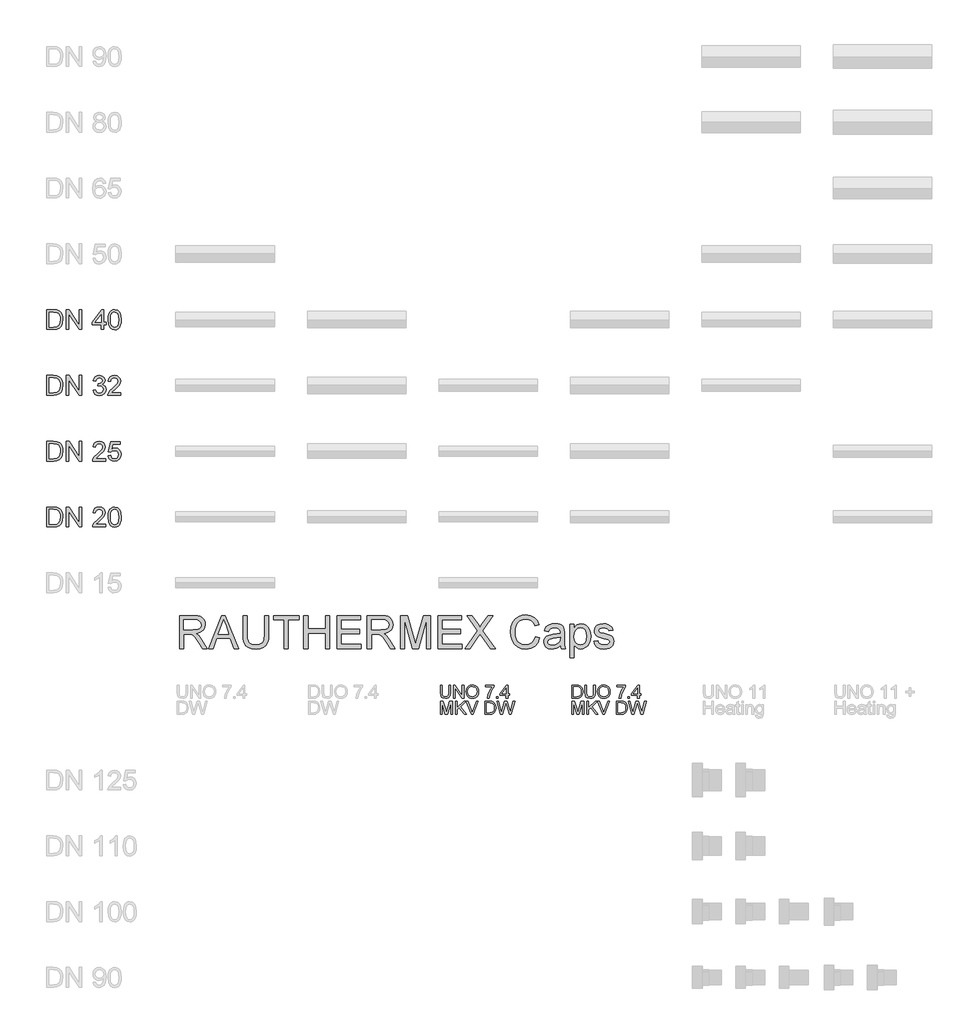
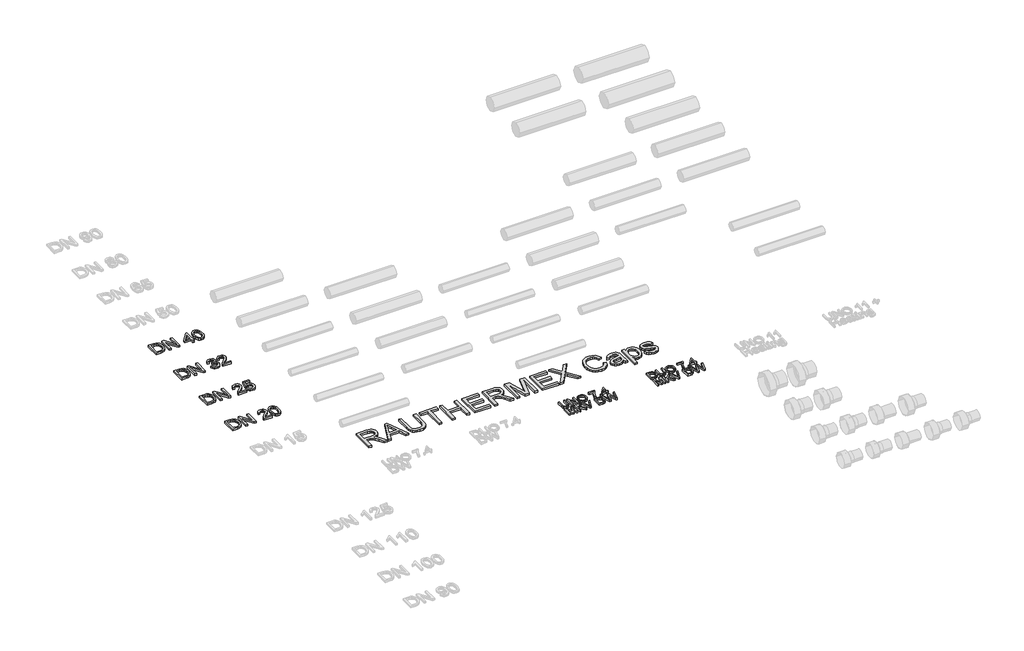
# One storey, part 14 of 44: 7 proxies.
"""IFC4 building model written with IfcOpenShell, lengths in millimetres."""

import ifcopenshell
import ifcopenshell.guid

model = None  # the IFC model being written
_history = None  # IfcOwnerHistory: only IFC2X3 demands one
_inside = {}  # id of a spatial element -> (the spatial element, [elements in it])
_under = {}  # id of a project, library or spatial element -> (it, [spatial elements below it])
_declared = {}  # id of a project -> (the project, [libraries it declares])
_typed = {}  # id of a type object -> (the type object, [elements of that type])
_made_of = {}  # id of a material, layer set ... -> (it, [elements and type objects made of it])


def new_model(schema):
    """Start an empty IFC model of exactly this schema.

    Asked for "IFC4X3", IfcOpenShell would pick the latest addendum, in which some entities
    have other attributes; the version numbers below select the first issue.
    IFC2X3 requires an IfcOwnerHistory on every rooted entity: one is made here for all.
    """
    global model, _history
    if schema == "IFC4X3":
        model = ifcopenshell.file(schema_version=(4, 3, 0, 0))
    else:
        model = ifcopenshell.file(schema=schema)
    _inside.clear()
    _under.clear()
    _declared.clear()
    _typed.clear()
    _made_of.clear()
    _history = None
    if model.schema == "IFC2X3":
        org = make("IfcOrganization", Name="unknown")
        user = make(
            "IfcPersonAndOrganization",
            ThePerson=make("IfcPerson", FamilyName="unknown"),
            TheOrganization=org,
        )
        app = make(
            "IfcApplication",
            ApplicationDeveloper=org,
            Version="unknown",
            ApplicationFullName="unknown",
            ApplicationIdentifier="unknown",
        )
        _history = make(
            "IfcOwnerHistory",
            OwningUser=user,
            OwningApplication=app,
            ChangeAction="ADDED",
            CreationDate=0,
        )
    return model


def make(cls, **values):
    """One entity of the class cls with the attributes given. An attribute that is None is left unset."""
    return model.create_entity(
        cls, **{name: value for name, value in values.items() if value is not None}
    )


def rooted(cls, **values):
    """An entity with a GlobalId (a new one), such as an element, a storey or a relation."""
    return make(cls, GlobalId=ifcopenshell.guid.new(), OwnerHistory=_history, **values)


def si_unit(unit_type, name, prefix=None):
    """IfcSIUnit, for example si_unit("LENGTHUNIT", "METRE", prefix="MILLI")."""
    return make("IfcSIUnit", UnitType=unit_type, Prefix=prefix, Name=name)


def assignment(units):
    """IfcUnitAssignment: the units of a project."""
    return None if units is None else make("IfcUnitAssignment", Units=units)


def point(xyz):
    """IfcCartesianPoint."""
    return None if xyz is None else make("IfcCartesianPoint", Coordinates=xyz)


def direction(xyz):
    """IfcDirection."""
    return None if xyz is None else make("IfcDirection", DirectionRatios=xyz)


def frame(location, z_axis=None, x_axis=None):
    """IfcAxis2Placement3D, a coordinate frame: its origin and axes. An axis left out is left unset."""
    return make(
        "IfcAxis2Placement3D",
        Location=point(location),
        Axis=direction(z_axis),
        RefDirection=direction(x_axis),
    )


def origin():
    """The frame at (0, 0, 0) with its axes left unset."""
    return frame((0.0, 0.0, 0.0))


def origin_with_axes():
    """The frame at (0, 0, 0) with the z axis (0, 0, 1) and the x axis (1, 0, 0) written out."""
    return frame((0.0, 0.0, 0.0), z_axis=(0.0, 0.0, 1.0), x_axis=(1.0, 0.0, 0.0))


def place(relative_to, where):
    """IfcLocalPlacement: puts the frame where relative to a parent placement (None: the world)."""
    return make(
        "IfcLocalPlacement", PlacementRelTo=relative_to, RelativePlacement=where
    )


def context(
    kind, dimensions, precision=None, world=None, true_north=None, identifier=None
):
    """IfcGeometricRepresentationContext, for example the 3D "Model" context."""
    return make(
        "IfcGeometricRepresentationContext",
        ContextIdentifier=identifier,
        ContextType=kind,
        CoordinateSpaceDimension=dimensions,
        Precision=precision,
        WorldCoordinateSystem=world,
        TrueNorth=true_north,
    )


def project(units=None, contexts=None):
    """IfcProject with its units and contexts."""
    return rooted(
        "IfcProject",
        Name="project",
        RepresentationContexts=contexts,
        UnitsInContext=assignment(units),
    )


def spatial(cls, under=None, at=None, **own):
    """A site, building, storey or space (cls), placed at a placement, below another one or the project."""
    s = rooted(cls, ObjectPlacement=at, **own)
    if under is not None:
        _under.setdefault(under.id(), (under, []))[1].append(s)
    return s


def polyline(points):
    """IfcPolyline through the points."""
    return make("IfcPolyline", Points=[point(p) for p in points])


def outline(outer, holes=None, kind="AREA"):
    """IfcArbitraryClosedProfileDef: a profile drawn as a closed curve; with holes, ...WithVoids."""
    if holes is None:
        return make("IfcArbitraryClosedProfileDef", ProfileType=kind, OuterCurve=outer)
    return make(
        "IfcArbitraryProfileDefWithVoids",
        ProfileType=kind,
        OuterCurve=outer,
        InnerCurves=holes,
    )


def extrude(swept, where, along, depth):
    """IfcExtrudedAreaSolid: the profile swept, set in the frame where, extruded along a direction by depth."""
    return make(
        "IfcExtrudedAreaSolid",
        SweptArea=swept,
        Position=where,
        ExtrudedDirection=direction(along),
        Depth=depth,
    )


def shape(context_of_items, identifier, shape_type, items):
    """IfcShapeRepresentation: the items that make up one representation, for example the "Body"."""
    return make(
        "IfcShapeRepresentation",
        ContextOfItems=context_of_items,
        RepresentationIdentifier=identifier,
        RepresentationType=shape_type,
        Items=items,
    )


def made_of(thing, what):
    """Note that an element or type object is made of a material, layer set ...; save() writes the relation."""
    if what is not None:
        _made_of.setdefault(what.id(), (what, []))[1].append(thing)
    return thing


def element(
    cls,
    number,
    at=None,
    inside=None,
    cuts=None,
    type_object=None,
    material=None,
    context=None,
    identifier="Body",
    shape_type=None,
    held_by="IfcProductDefinitionShape",
    body=None,
    shapes=None,
    **own,
):
    """One element of the class cls, such as IfcWall. Its Tag is "e" and its number.

    at: its placement. inside: the storey or other place that contains it. cuts: it is an
    opening in that element (IfcRelVoidsElement). A single representation is given by context,
    identifier, shape_type and body (its items); several are given by shapes. held_by: the class
    of the entity that holds the representations. save() writes the other relations.
    """
    e = rooted(cls, Tag="e%d" % number, ObjectPlacement=at, **own)
    if body is not None:
        shapes = [shape(context, identifier, shape_type, body)]
    if shapes is not None:
        e.Representation = make(held_by, Representations=shapes)
    if inside is not None:
        _inside.setdefault(inside.id(), (inside, []))[1].append(e)
    if cuts is not None:
        rooted(
            "IfcRelVoidsElement", RelatingBuildingElement=cuts, RelatedOpeningElement=e
        )
    if type_object is not None:
        _typed.setdefault(type_object.id(), (type_object, []))[1].append(e)
    return made_of(e, material)


def aggregate(whole, parts):
    """IfcRelAggregates: a whole, such as a stair, and the parts it consists of."""
    return rooted("IfcRelAggregates", RelatingObject=whole, RelatedObjects=parts)


def save(model, path):
    """Write the relations noted so far, then the file.

    IfcRelAggregates (storeys below a building ...), IfcRelContainedInSpatialStructure (elements
    in a storey), IfcRelDefinesByType, IfcRelAssociatesMaterial and IfcRelDeclares: one each for
    every whole, place, type object, material and project.
    """
    for whole, parts in _under.values():
        aggregate(whole, parts)
    for where, things in _inside.values():
        rooted(
            "IfcRelContainedInSpatialStructure",
            RelatedElements=things,
            RelatingStructure=where,
        )
    for kind, things in _typed.values():
        rooted("IfcRelDefinesByType", RelatedObjects=things, RelatingType=kind)
    for what, things in _made_of.values():
        rooted("IfcRelAssociatesMaterial", RelatedObjects=things, RelatingMaterial=what)
    for by, libraries in _declared.values():
        rooted("IfcRelDeclares", RelatingContext=by, RelatedDefinitions=libraries)
    model.write(path)


model = new_model("IFC4")

# Units and contexts
model_context = context("Model", 3, world=origin())
ifc_project = project(units=[si_unit("LENGTHUNIT", "METRE", prefix="MILLI")], contexts=[model_context])

# Site, building, storey
site = spatial("IfcSite", under=ifc_project)
building = spatial("IfcBuilding", under=site)
storey = spatial("IfcBuildingStorey", under=building, Name="REHAU Starting view", Elevation=0.0)

# Proxies
placement = place(None, origin())
element("IfcBuildingElementProxy", 1, Name="100", ObjectType="100", at=placement, inside=storey, context=model_context, shape_type="SweptSolid", body=[
    extrude(outline(polyline([(3076.9118625, 13222.431128), (3089.4689012, 13222.431128), (3089.4689012, 13164.477451), (3086.0598614, 13140.4547567), (3073.7726028, 13125.9847316), (3063.5086951, 13121.8000739), (3050.4734097, 13120.405188), (3027.529836, 13125.2612303), (3019.8901532, 13131.2055902), (3014.8011189, 13139.3265853), (3010.9874089, 13164.477451), (3010.9874089, 13222.431128), (3023.5444477, 13222.431128), (3023.5444477, 13164.9189094), (3026.0215198, 13145.7767829), (3034.5318566, 13136.2976902), (3049.2961874, 13132.9622268), (3062.067824, 13134.6115644), (3070.5597667, 13139.5595772), (3075.3238385, 13149.1980855), (3076.9118625, 13164.9189094), (3076.9118625, 13222.431128)])), origin_with_axes(), (0.0, 0.0, 1.0), 20.0),
    extrude(outline(polyline([(3111.4437191, 13121.9748178), (3111.4437191, 13222.431128), (3124.8836746, 13222.431128), (3177.3681726, 13142.8459897), (3177.3681726, 13222.431128), (3189.9252114, 13222.431128), (3189.9252114, 13121.9748178), (3176.4852558, 13121.9748178), (3124.0007578, 13201.5844816), (3124.0007578, 13121.9748178), (3111.4437191, 13121.9748178)])), origin_with_axes(), (0.0, 0.0, 1.0), 20.0),
    extrude(outline(polyline([(3207.1911397, 13170.8785977), (3210.5388658, 13193.0925389), (3220.5820443, 13209.8986147), (3235.9165921, 13220.4752221), (3255.1384264, 13224.0007578), (3268.3147332, 13222.3452889), (3280.1298766, 13217.3788819), (3289.9400631, 13209.4510249), (3297.1014993, 13198.9112058), (3301.479295, 13186.2683279), (3302.9385603, 13172.0312947), (3301.402653, 13157.6041891), (3296.794931, 13144.7835015), (3289.369846, 13134.2252883), (3279.3818499, 13126.5856055), (3267.667874, 13121.9502924), (3255.06485, 13120.405188), (3241.6862081, 13122.1127736), (3229.8036197, 13127.2355304), (3220.0179586, 13135.3105402), (3212.9300988, 13145.8748848), (3207.1911397, 13170.8785977)]), holes=[polyline([(3219.7481785, 13170.7559704), (3222.2589731, 13155.0412778), (3229.7913569, 13143.0667189), (3241.1129253, 13135.4883498), (3254.9912736, 13132.9622268), (3269.071957, 13135.5128753), (3280.4119195, 13143.1648208), (3287.889121, 13155.5072617), (3290.3815215, 13172.1293965), (3286.1140904, 13192.8534156), (3273.6428907, 13206.575414), (3255.2120028, 13211.4437191), (3241.7046022, 13209.0984714), (3230.2205526, 13202.0627282), (3222.366272, 13189.5455433), (3219.7481785, 13170.7559704)])]), origin_with_axes(), (0.0, 0.0, 1.0), 20.0),
    extrude(outline(polyline([(3354.7363452, 13208.3044594), (3354.7363452, 13220.8614981), (3420.6607988, 13220.8614981), (3420.6607988, 13210.7079551), (3401.9601307, 13183.6931539), (3387.6495211, 13149.2716619), (3382.9896824, 13121.9748178), (3370.4326437, 13121.9748178), (3375.4235761, 13150.3017315), (3389.121049, 13182.3197278), (3408.10376, 13208.3044594), (3354.7363452, 13208.3044594)])), origin_with_axes(), (0.0, 0.0, 1.0), 20.0),
    extrude(outline(polyline([(3437.9267271, 13121.9748178), (3437.9267271, 13134.5318566), (3450.4837658, 13134.5318566), (3450.4837658, 13121.9748178), (3437.9267271, 13121.9748178)])), origin_with_axes(), (0.0, 0.0, 1.0), 20.0),
    extrude(outline(polyline([(3511.6993298, 13121.9748178), (3511.6993298, 13145.5192655), (3466.1800643, 13145.5192655), (3466.1800643, 13158.0763043), (3514.8385895, 13220.8614981), (3524.2563686, 13220.8614981), (3524.2563686, 13158.0763043), (3536.8134074, 13158.0763043), (3536.8134074, 13145.5192655), (3524.2563686, 13145.5192655), (3524.2563686, 13121.9748178), (3511.6993298, 13121.9748178)]), holes=[polyline([(3511.6993298, 13158.0763043), (3511.6993298, 13196.8755921), (3481.6311081, 13158.0763043), (3511.6993298, 13158.0763043)])]), origin_with_axes(), (0.0, 0.0, 1.0), 20.0),
    extrude(outline(polyline([(3010.9874089, 13000.0), (3010.9874089, 13100.4563101), (3032.5943448, 13100.4563101), (3053.1466856, 13029.6512888), (3057.2914894, 13014.8624326), (3061.7796497, 13030.8775621), (3081.988634, 13100.4563101), (3103.5955698, 13100.4563101), (3103.5955698, 13000.0), (3091.0385311, 13000.0), (3091.0385311, 13087.8992714), (3065.8018262, 13000.0), (3048.7811526, 13000.0), (3023.5444477, 13087.8992714), (3023.5444477, 13000.0), (3010.9874089, 13000.0)])), origin_with_axes(), (0.0, 0.0, 1.0), 20.0),
    extrude(outline(polyline([(3247.8543629, 13000.0), (3207.8778527, 13100.4563101), (3221.3178083, 13100.4563101), (3248.0750921, 13028.081659), (3253.4952201, 13011.7722238), (3258.8417718, 13028.081659), (3285.672632, 13100.4563101), (3299.1125875, 13100.4563101), (3260.8283346, 13000.0), (3247.8543629, 13000.0)])), origin_with_axes(), (0.0, 0.0, 1.0), 20.0),
    extrude(outline(polyline([(3125.5703877, 13000.0), (3125.5703877, 13100.4563101), (3138.1274265, 13100.4563101), (3138.1274265, 13051.2827501), (3189.6309058, 13100.4563101), (3207.1911397, 13100.4563101), (3163.9527425, 13059.1554248), (3208.7607695, 13000.0), (3193.4078276, 13000.0), (3155.0499982, 13050.6696135), (3138.1274265, 13034.5318566), (3138.1274265, 13000.0), (3125.5703877, 13000.0)])), origin_with_axes(), (0.0, 0.0, 1.0), 20.0),
    extrude(outline(polyline([(3350.0274557, 13000.0), (3350.0274557, 13100.4563101), (3384.6819396, 13100.4563101), (3402.6100555, 13099.0093076), (3417.3743863, 13091.823346), (3429.2692374, 13074.6555196), (3433.2178375, 13050.7677153), (3430.5445617, 13030.4974174), (3423.6774311, 13015.8679767), (3414.5049067, 13006.756766), (3402.4996909, 13001.7167826), (3386.3496713, 13000.0), (3350.0274557, 13000.0)]), holes=[polyline([(3362.5844944, 13012.5570388), (3384.804567, 13012.5570388), (3400.9668493, 13014.3719233), (3410.2865265, 13019.4977457), (3417.9262093, 13031.9689454), (3420.6607988, 13050.9639191), (3419.3210952, 13064.6491293), (3415.3019844, 13074.7536214), (3402.266699, 13085.8881831), (3384.4612104, 13087.8992714), (3362.5844944, 13087.8992714), (3362.5844944, 13012.5570388)])]), origin_with_axes(), (0.0, 0.0, 1.0), 20.0),
    extrude(outline(polyline([(3468.4609327, 13000.0), (3441.0659868, 13100.4563101), (3454.015433, 13100.4563101), (3469.9079352, 13034.4337547), (3474.8130284, 13014.0530922), (3480.0614782, 13032.07931), (3499.9761569, 13100.4563101), (3518.6400368, 13100.4563101), (3533.1100619, 13050.8903427), (3543.8767417, 13014.0530922), (3548.6346821, 13033.8451436), (3564.6743371, 13100.4563101), (3577.6237834, 13100.4563101), (3550.204312, 13000.0), (3536.7888819, 13000.0), (3512.7048739, 13077.5004737), (3509.3448851, 13088.3162043), (3505.5679632, 13075.2931817), (3483.6176709, 13000.0), (3468.4609327, 13000.0)])), origin_with_axes(), (0.0, 0.0, 1.0), 20.0),
])
element("IfcBuildingElementProxy", 2, Name="100", ObjectType="100", at=placement, inside=storey, context=model_context, shape_type="SweptSolid", body=[
    extrude(outline(polyline([(4010.9874089, 13121.9748178), (4010.9874089, 13222.431128), (4045.6418929, 13222.431128), (4063.5700088, 13220.9841255), (4078.3343395, 13213.7981638), (4090.2291907, 13196.6303374), (4094.1777908, 13172.7425332), (4091.5045149, 13152.4722352), (4084.6373844, 13137.8427946), (4075.4648599, 13128.7315838), (4063.4596442, 13123.6916005), (4047.3096246, 13121.9748178), (4010.9874089, 13121.9748178)]), holes=[polyline([(4023.5444477, 13134.5318566), (4045.7645202, 13134.5318566), (4061.9268025, 13136.3467411), (4071.2464797, 13141.4725636), (4078.8861625, 13153.9437632), (4081.620752, 13172.9387369), (4080.2810484, 13186.6239471), (4076.2619376, 13196.7284393), (4063.2266522, 13207.863001), (4045.4211637, 13209.8740892), (4023.5444477, 13209.8740892), (4023.5444477, 13134.5318566)])]), origin_with_axes(), (0.0, 0.0, 1.0), 20.0),
    extrude(outline(polyline([(4177.3681726, 13222.431128), (4189.9252114, 13222.431128), (4189.9252114, 13164.477451), (4186.5161716, 13140.4547567), (4174.2289129, 13125.9847316), (4163.9650053, 13121.8000739), (4150.9297199, 13120.405188), (4127.9861461, 13125.2612303), (4120.3464634, 13131.2055902), (4115.2574291, 13139.3265853), (4111.4437191, 13164.477451), (4111.4437191, 13222.431128), (4124.0007578, 13222.431128), (4124.0007578, 13164.9189094), (4126.4778299, 13145.7767829), (4134.9881668, 13136.2976902), (4149.7524975, 13132.9622268), (4162.5241341, 13134.6115644), (4171.0160768, 13139.5595772), (4175.7801487, 13149.1980855), (4177.3681726, 13164.9189094), (4177.3681726, 13222.431128)])), origin_with_axes(), (0.0, 0.0, 1.0), 20.0),
    extrude(outline(polyline([(4207.1911397, 13170.8785977), (4210.5388658, 13193.0925389), (4220.5820443, 13209.8986147), (4235.9165921, 13220.4752221), (4255.1384264, 13224.0007578), (4268.3147332, 13222.3452889), (4280.1298766, 13217.3788819), (4289.9400631, 13209.4510249), (4297.1014993, 13198.9112058), (4301.479295, 13186.2683279), (4302.9385603, 13172.0312947), (4301.402653, 13157.6041891), (4296.794931, 13144.7835015), (4289.369846, 13134.2252883), (4279.3818499, 13126.5856055), (4267.667874, 13121.9502924), (4255.06485, 13120.405188), (4241.6862081, 13122.1127736), (4229.8036197, 13127.2355304), (4220.0179586, 13135.3105402), (4212.9300988, 13145.8748848), (4207.1911397, 13170.8785977)]), holes=[polyline([(4219.7481785, 13170.7559704), (4222.2589731, 13155.0412778), (4229.7913569, 13143.0667189), (4241.1129253, 13135.4883498), (4254.9912736, 13132.9622268), (4269.071957, 13135.5128753), (4280.4119195, 13143.1648208), (4287.889121, 13155.5072617), (4290.3815215, 13172.1293965), (4286.1140904, 13192.8534156), (4273.6428907, 13206.575414), (4255.2120028, 13211.4437191), (4241.7046022, 13209.0984714), (4230.2205526, 13202.0627282), (4222.366272, 13189.5455433), (4219.7481785, 13170.7559704)])]), origin_with_axes(), (0.0, 0.0, 1.0), 20.0),
    extrude(outline(polyline([(4354.7363452, 13208.3044594), (4354.7363452, 13220.8614981), (4420.6607988, 13220.8614981), (4420.6607988, 13210.7079551), (4401.9601307, 13183.6931539), (4387.6495211, 13149.2716619), (4382.9896824, 13121.9748178), (4370.4326437, 13121.9748178), (4375.4235761, 13150.3017315), (4389.121049, 13182.3197278), (4408.10376, 13208.3044594), (4354.7363452, 13208.3044594)])), origin_with_axes(), (0.0, 0.0, 1.0), 20.0),
    extrude(outline(polyline([(4437.9267271, 13121.9748178), (4437.9267271, 13134.5318566), (4450.4837658, 13134.5318566), (4450.4837658, 13121.9748178), (4437.9267271, 13121.9748178)])), origin_with_axes(), (0.0, 0.0, 1.0), 20.0),
    extrude(outline(polyline([(4511.6993298, 13121.9748178), (4511.6993298, 13145.5192655), (4466.1800643, 13145.5192655), (4466.1800643, 13158.0763043), (4514.8385895, 13220.8614981), (4524.2563686, 13220.8614981), (4524.2563686, 13158.0763043), (4536.8134074, 13158.0763043), (4536.8134074, 13145.5192655), (4524.2563686, 13145.5192655), (4524.2563686, 13121.9748178), (4511.6993298, 13121.9748178)]), holes=[polyline([(4511.6993298, 13158.0763043), (4511.6993298, 13196.8755921), (4481.6311081, 13158.0763043), (4511.6993298, 13158.0763043)])]), origin_with_axes(), (0.0, 0.0, 1.0), 20.0),
    extrude(outline(polyline([(4010.9874089, 13000.0), (4010.9874089, 13100.4563101), (4032.5943448, 13100.4563101), (4053.1466856, 13029.6512888), (4057.2914894, 13014.8624326), (4061.7796497, 13030.8775621), (4081.988634, 13100.4563101), (4103.5955698, 13100.4563101), (4103.5955698, 13000.0), (4091.0385311, 13000.0), (4091.0385311, 13087.8992714), (4065.8018262, 13000.0), (4048.7811526, 13000.0), (4023.5444477, 13087.8992714), (4023.5444477, 13000.0), (4010.9874089, 13000.0)])), origin_with_axes(), (0.0, 0.0, 1.0), 20.0),
    extrude(outline(polyline([(4247.8543629, 13000.0), (4207.8778527, 13100.4563101), (4221.3178083, 13100.4563101), (4248.0750921, 13028.081659), (4253.4952201, 13011.7722238), (4258.8417718, 13028.081659), (4285.672632, 13100.4563101), (4299.1125875, 13100.4563101), (4260.8283346, 13000.0), (4247.8543629, 13000.0)])), origin_with_axes(), (0.0, 0.0, 1.0), 20.0),
    extrude(outline(polyline([(4125.5703877, 13000.0), (4125.5703877, 13100.4563101), (4138.1274265, 13100.4563101), (4138.1274265, 13051.2827501), (4189.6309058, 13100.4563101), (4207.1911397, 13100.4563101), (4163.9527425, 13059.1554248), (4208.7607695, 13000.0), (4193.4078276, 13000.0), (4155.0499982, 13050.6696135), (4138.1274265, 13034.5318566), (4138.1274265, 13000.0), (4125.5703877, 13000.0)])), origin_with_axes(), (0.0, 0.0, 1.0), 20.0),
    extrude(outline(polyline([(4350.0274557, 13000.0), (4350.0274557, 13100.4563101), (4384.6819396, 13100.4563101), (4402.6100555, 13099.0093076), (4417.3743863, 13091.823346), (4429.2692374, 13074.6555196), (4433.2178375, 13050.7677153), (4430.5445617, 13030.4974174), (4423.6774311, 13015.8679767), (4414.5049067, 13006.756766), (4402.4996909, 13001.7167826), (4386.3496713, 13000.0), (4350.0274557, 13000.0)]), holes=[polyline([(4362.5844944, 13012.5570388), (4384.804567, 13012.5570388), (4400.9668493, 13014.3719233), (4410.2865265, 13019.4977457), (4417.9262093, 13031.9689454), (4420.6607988, 13050.9639191), (4419.3210952, 13064.6491293), (4415.3019844, 13074.7536214), (4402.266699, 13085.8881831), (4384.4612104, 13087.8992714), (4362.5844944, 13087.8992714), (4362.5844944, 13012.5570388)])]), origin_with_axes(), (0.0, 0.0, 1.0), 20.0),
    extrude(outline(polyline([(4468.4609327, 13000.0), (4441.0659868, 13100.4563101), (4454.015433, 13100.4563101), (4469.9079352, 13034.4337547), (4474.8130284, 13014.0530922), (4480.0614782, 13032.07931), (4499.9761569, 13100.4563101), (4518.6400368, 13100.4563101), (4533.1100619, 13050.8903427), (4543.8767417, 13014.0530922), (4548.6346821, 13033.8451436), (4564.6743371, 13100.4563101), (4577.6237834, 13100.4563101), (4550.204312, 13000.0), (4536.7888819, 13000.0), (4512.7048739, 13077.5004737), (4509.3448851, 13088.3162043), (4505.5679632, 13075.2931817), (4483.6176709, 13000.0), (4468.4609327, 13000.0)])), origin_with_axes(), (0.0, 0.0, 1.0), 20.0),
])
element("IfcBuildingElementProxy", 3, Name="150", ObjectType="150", at=placement, inside=storey, context=model_context, shape_type="SweptSolid", body=[
    extrude(outline(polyline([(16.4811134, 14425.0), (16.4811134, 14575.6844652), (68.4628393, 14575.6844652), (95.3550131, 14573.5139615), (117.5015093, 14562.735019), (127.9217668, 14551.2571007), (135.343786, 14536.9832793), (139.7859611, 14520.1894663), (141.2666861, 14501.151573), (137.2567724, 14470.7461261), (126.9560765, 14448.8019651), (113.1972899, 14435.135149), (95.1894663, 14427.575174), (70.9644369, 14425.0), (16.4811134, 14425.0)]), holes=[polyline([(35.3166715, 14443.8355582), (68.6467803, 14443.8355582), (92.8902038, 14446.5578849), (106.8697196, 14454.2466186), (118.3292437, 14472.9534181), (122.431128, 14501.4458786), (120.4215726, 14521.9736939), (114.3929064, 14537.1304321), (105.4855636, 14547.5414926), (94.8399784, 14553.8322747), (68.1317455, 14556.8489071), (35.3166715, 14556.8489071), (35.3166715, 14443.8355582)])]), origin_with_axes(), (0.0, 0.0, 1.0), 20.0),
    extrude(outline(polyline([(167.1655786, 14425.0), (167.1655786, 14575.6844652), (187.3255119, 14575.6844652), (266.0522589, 14456.3067578), (266.0522589, 14575.6844652), (284.8878171, 14575.6844652), (284.8878171, 14425.0), (264.7278837, 14425.0), (186.0011368, 14544.4144956), (186.0011368, 14425.0), (167.1655786, 14425.0)])), origin_with_axes(), (0.0, 0.0, 1.0), 20.0),
    extrude(outline(polyline([(466.1800643, 14443.8355582), (466.1800643, 14425.0), (367.293384, 14425.0), (369.316735, 14437.9862344), (380.757865, 14457.9806209), (404.3391009, 14479.8144173), (436.8598693, 14511.1947515), (442.9575133, 14522.0104821), (444.9900614, 14532.5319072), (443.0724765, 14541.9634818), (437.3197218, 14549.8039669), (428.4767583, 14555.087672), (417.2885471, 14556.8489071), (405.5393159, 14555.1290587), (396.4112439, 14549.9695138), (390.5205335, 14541.7749423), (388.4833869, 14530.9500146), (369.6478288, 14533.3044594), (374.214164, 14551.5238152), (384.0871971, 14564.8319464), (398.7518931, 14572.9713355), (417.6932173, 14575.6844652), (436.7724973, 14572.6678329), (451.4096022, 14563.6179358), (460.7216152, 14550.0982725), (463.8256195, 14533.6723414), (460.4778934, 14515.8116705), (449.349463, 14497.3439944), (422.3653187, 14471.5370724), (400.6970691, 14453.4188841), (392.1989951, 14443.8355582), (466.1800643, 14443.8355582)])), origin_with_axes(), (0.0, 0.0, 1.0), 20.0),
    extrude(outline(polyline([(485.0156224, 14499.128222), (486.3997784, 14523.2474853), (490.5522465, 14542.4831152), (497.4316398, 14557.1294171), (506.9965717, 14567.4806967), (519.31602, 14573.6335231), (534.4589626, 14575.6844652), (556.4583059, 14570.8284229), (571.6518323, 14556.830513), (580.4810002, 14534.5368641), (583.9023027, 14499.128222), (582.5319423, 14475.1469145), (578.420861, 14455.9572699), (571.5828544, 14441.2971724), (562.0317181, 14430.904506), (549.6846787, 14424.7102929), (534.4589626, 14422.6455552), (514.8876404, 14426.2324047), (500.0252078, 14436.992953), (488.7680188, 14462.4779783), (485.0156224, 14499.128222)]), holes=[polyline([(503.8511806, 14499.1650102), (506.0584726, 14469.536714), (512.6803485, 14452.3888145), (522.5395859, 14444.2080387), (534.4589626, 14441.4811134), (546.3783392, 14444.2172357), (556.2375767, 14452.4256027), (562.8594526, 14469.5826993), (565.0667446, 14499.1650102), (562.933029, 14528.1265203), (556.5318823, 14545.407777), (546.6910389, 14553.9886246), (534.2382334, 14556.8489071), (522.4476155, 14554.3289154), (512.9746541, 14546.7689404), (506.132049, 14528.4116288), (503.8511806, 14499.1650102)])]), origin_with_axes(), (0.0, 0.0, 1.0), 20.0),
])
element("IfcBuildingElementProxy", 4, Name="150", ObjectType="150", at=placement, inside=storey, context=model_context, shape_type="SweptSolid", body=[
    extrude(outline(polyline([(16.4811134, 14925.0), (16.4811134, 15075.6844652), (68.4628393, 15075.6844652), (95.3550131, 15073.5139615), (117.5015093, 15062.735019), (127.9217668, 15051.2571007), (135.343786, 15036.9832793), (139.7859611, 15020.1894663), (141.2666861, 15001.151573), (137.2567724, 14970.7461261), (126.9560765, 14948.8019651), (113.1972899, 14935.135149), (95.1894663, 14927.575174), (70.9644369, 14925.0), (16.4811134, 14925.0)]), holes=[polyline([(35.3166715, 14943.8355582), (68.6467803, 14943.8355582), (92.8902038, 14946.5578849), (106.8697196, 14954.2466186), (118.3292437, 14972.9534181), (122.431128, 15001.4458786), (120.4215726, 15021.9736939), (114.3929064, 15037.1304321), (105.4855636, 15047.5414926), (94.8399784, 15053.8322747), (68.1317455, 15056.8489071), (35.3166715, 15056.8489071), (35.3166715, 14943.8355582)])]), origin_with_axes(), (0.0, 0.0, 1.0), 20.0),
    extrude(outline(polyline([(167.1655786, 14925.0), (167.1655786, 15075.6844652), (187.3255119, 15075.6844652), (266.0522589, 14956.3067578), (266.0522589, 15075.6844652), (284.8878171, 15075.6844652), (284.8878171, 14925.0), (264.7278837, 14925.0), (186.0011368, 15044.4144956), (186.0011368, 14925.0), (167.1655786, 14925.0)])), origin_with_axes(), (0.0, 0.0, 1.0), 20.0),
    extrude(outline(polyline([(466.1800643, 14943.8355582), (466.1800643, 14925.0), (367.293384, 14925.0), (369.316735, 14937.9862344), (380.757865, 14957.9806209), (404.3391009, 14979.8144173), (436.8598693, 15011.1947515), (442.9575133, 15022.0104821), (444.9900614, 15032.5319072), (443.0724765, 15041.9634818), (437.3197218, 15049.8039669), (428.4767583, 15055.087672), (417.2885471, 15056.8489071), (405.5393159, 15055.1290587), (396.4112439, 15049.9695138), (390.5205335, 15041.7749423), (388.4833869, 15030.9500146), (369.6478288, 15033.3044594), (374.214164, 15051.5238152), (384.0871971, 15064.8319464), (398.7518931, 15072.9713355), (417.6932173, 15075.6844652), (436.7724973, 15072.6678329), (451.4096022, 15063.6179358), (460.7216152, 15050.0982725), (463.8256195, 15033.6723414), (460.4778934, 15015.8116705), (449.349463, 14997.3439944), (422.3653187, 14971.5370724), (400.6970691, 14953.4188841), (392.1989951, 14943.8355582), (466.1800643, 14943.8355582)])), origin_with_axes(), (0.0, 0.0, 1.0), 20.0),
    extrude(outline(polyline([(485.0156224, 14965.0255611), (503.8511806, 14967.3800058), (507.3092713, 14956.072233), (513.3425361, 14947.9742306), (521.9233836, 14943.1043927), (533.0242228, 14941.4811134), (546.525492, 14943.7389891), (556.6422469, 14950.5126164), (562.9606202, 14961.0202459), (565.0667446, 14974.4801284), (563.0939774, 14987.1536631), (557.1756758, 14996.8473537), (547.2658545, 15003.00018), (533.3185284, 15005.0511222), (516.7822327, 15001.7769724), (506.2056254, 14993.2788983), (487.3700672, 14995.6333431), (503.8511806, 15073.3300205), (576.8389684, 15073.3300205), (576.8389684, 15054.4944623), (519.0814952, 15054.4944623), (511.0248795, 15012.9973732), (524.4801635, 15021.1643535), (538.5792409, 15023.8866803), (556.1777959, 15020.511363), (570.7873096, 15010.3854111), (580.6235545, 14994.9527614), (583.9023027, 14975.6573507), (580.9500497, 14956.8217926), (572.0932907, 14940.7085612), (555.1339307, 14927.1613067), (532.9506464, 14922.6455552), (514.4507806, 14925.5472245), (499.7125081, 14934.2522322), (489.6095489, 14947.7489029), (485.0156224, 14965.0255611)])), origin_with_axes(), (0.0, 0.0, 1.0), 20.0),
])
element("IfcBuildingElementProxy", 5, Name="150", ObjectType="150", at=placement, inside=storey, context=model_context, shape_type="SweptSolid", body=[
    extrude(outline(polyline([(16.4811134, 15425.0), (16.4811134, 15575.6844652), (68.4628393, 15575.6844652), (95.3550131, 15573.5139615), (117.5015093, 15562.735019), (127.9217668, 15551.2571007), (135.343786, 15536.9832793), (139.7859611, 15520.1894663), (141.2666861, 15501.151573), (137.2567724, 15470.7461261), (126.9560765, 15448.8019651), (113.1972899, 15435.135149), (95.1894663, 15427.575174), (70.9644369, 15425.0), (16.4811134, 15425.0)]), holes=[polyline([(35.3166715, 15443.8355582), (68.6467803, 15443.8355582), (92.8902038, 15446.5578849), (106.8697196, 15454.2466186), (118.3292437, 15472.9534181), (122.431128, 15501.4458786), (120.4215726, 15521.9736939), (114.3929064, 15537.1304321), (105.4855636, 15547.5414926), (94.8399784, 15553.8322747), (68.1317455, 15556.8489071), (35.3166715, 15556.8489071), (35.3166715, 15443.8355582)])]), origin_with_axes(), (0.0, 0.0, 1.0), 20.0),
    extrude(outline(polyline([(167.1655786, 15425.0), (167.1655786, 15575.6844652), (187.3255119, 15575.6844652), (266.0522589, 15456.3067578), (266.0522589, 15575.6844652), (284.8878171, 15575.6844652), (284.8878171, 15425.0), (264.7278837, 15425.0), (186.0011368, 15544.4144956), (186.0011368, 15425.0), (167.1655786, 15425.0)])), origin_with_axes(), (0.0, 0.0, 1.0), 20.0),
    extrude(outline(polyline([(369.6478288, 15465.0255611), (388.4833869, 15467.3800058), (392.7002343, 15455.5434026), (398.8760533, 15447.5511663), (407.3143465, 15442.9986266), (418.3186167, 15441.4811134), (431.2312747, 15443.5688437), (441.2008768, 15449.8320347), (447.5744324, 15459.1762374), (449.6989509, 15470.5070028), (447.5928265, 15481.2629526), (441.2744532, 15489.9863544), (431.7095213, 15495.7667003), (419.8637211, 15497.6934822), (406.6567575, 15495.6333431), (408.7536848, 15514.4689012), (411.7703172, 15514.248172), (433.1442611, 15519.6560374), (440.2627777, 15526.5170366), (442.6356166, 15536.2843035), (440.9157683, 15544.4190942), (435.7562233, 15551.0179774), (427.8835486, 15555.3911747), (418.0243111, 15556.8489071), (408.1466795, 15555.3773791), (400.0716698, 15550.9627951), (394.1763608, 15543.6051552), (390.8378317, 15533.3044594), (372.0022735, 15535.6589041), (377.5480946, 15552.5722789), (387.4165291, 15565.1998284), (400.9177983, 15573.063306), (417.3621235, 15575.6844652), (440.0788367, 15570.5157232), (455.9713389, 15556.3890546), (461.4711747, 15537.3879495), (456.2472504, 15520.0239194), (440.7962066, 15507.5527197), (452.5868246, 15502.7886479), (461.324022, 15494.6768499), (466.7318873, 15483.6587841), (468.5345091, 15470.175909), (464.9292655, 15451.8185974), (454.1135348, 15436.4779182), (437.7887713, 15426.103646), (417.6564291, 15422.6455552), (399.4462704, 15425.5978082), (384.620626, 15434.4545673), (374.310733, 15448.0018217), (369.6478288, 15465.0255611)])), origin_with_axes(), (0.0, 0.0, 1.0), 20.0),
    extrude(outline(polyline([(581.547858, 15443.8355582), (581.547858, 15425.0), (482.6611777, 15425.0), (484.6845286, 15437.9862344), (496.1256587, 15457.9806209), (519.7068946, 15479.8144173), (552.227663, 15511.1947515), (558.325307, 15522.0104821), (560.3578551, 15532.5319072), (558.4402702, 15541.9634818), (552.6875155, 15549.8039669), (543.844552, 15555.087672), (532.6563408, 15556.8489071), (520.9071096, 15555.1290587), (511.7790376, 15549.9695138), (505.8883271, 15541.7749423), (503.8511806, 15530.9500146), (485.0156224, 15533.3044594), (489.5819577, 15551.5238152), (499.4549908, 15564.8319464), (514.1196868, 15572.9713355), (533.061011, 15575.6844652), (552.140291, 15572.6678329), (566.7773959, 15563.6179358), (576.0894089, 15550.0982725), (579.1934132, 15533.6723414), (575.8456871, 15515.8116705), (564.7172567, 15497.3439944), (537.7331123, 15471.5370724), (516.0648628, 15453.4188841), (507.5667887, 15443.8355582), (581.547858, 15443.8355582)])), origin_with_axes(), (0.0, 0.0, 1.0), 20.0),
])
element("IfcBuildingElementProxy", 6, Name="150", ObjectType="150", at=placement, inside=storey, context=model_context, shape_type="SweptSolid", body=[
    extrude(outline(polyline([(16.4811134, 15925.0), (16.4811134, 16075.6844652), (68.4628393, 16075.6844652), (95.3550131, 16073.5139615), (117.5015093, 16062.735019), (127.9217668, 16051.2571007), (135.343786, 16036.9832793), (139.7859611, 16020.1894663), (141.2666861, 16001.151573), (137.2567724, 15970.7461261), (126.9560765, 15948.8019651), (113.1972899, 15935.135149), (95.1894663, 15927.575174), (70.9644369, 15925.0), (16.4811134, 15925.0)]), holes=[polyline([(35.3166715, 15943.8355582), (68.6467803, 15943.8355582), (92.8902038, 15946.5578849), (106.8697196, 15954.2466186), (118.3292437, 15972.9534181), (122.431128, 16001.4458786), (120.4215726, 16021.9736939), (114.3929064, 16037.1304321), (105.4855636, 16047.5414926), (94.8399784, 16053.8322747), (68.1317455, 16056.8489071), (35.3166715, 16056.8489071), (35.3166715, 15943.8355582)])]), origin_with_axes(), (0.0, 0.0, 1.0), 20.0),
    extrude(outline(polyline([(167.1655786, 15925.0), (167.1655786, 16075.6844652), (187.3255119, 16075.6844652), (266.0522589, 15956.3067578), (266.0522589, 16075.6844652), (284.8878171, 16075.6844652), (284.8878171, 15925.0), (264.7278837, 15925.0), (186.0011368, 16044.4144956), (186.0011368, 15925.0), (167.1655786, 15925.0)])), origin_with_axes(), (0.0, 0.0, 1.0), 20.0),
    extrude(outline(polyline([(430.8633928, 15925.0), (430.8633928, 15960.3166715), (362.5844944, 15960.3166715), (362.5844944, 15979.1522297), (435.5722823, 16073.3300205), (449.6989509, 16073.3300205), (449.6989509, 15979.1522297), (468.5345091, 15979.1522297), (468.5345091, 15960.3166715), (449.6989509, 15960.3166715), (449.6989509, 15925.0), (430.8633928, 15925.0)]), holes=[polyline([(430.8633928, 15979.1522297), (430.8633928, 16037.3511613), (385.7610601, 15979.1522297), (430.8633928, 15979.1522297)])]), origin_with_axes(), (0.0, 0.0, 1.0), 20.0),
    extrude(outline(polyline([(485.0156224, 15999.128222), (486.3997784, 16023.2474853), (490.5522465, 16042.4831152), (497.4316398, 16057.1294171), (506.9965717, 16067.4806967), (519.31602, 16073.6335231), (534.4589626, 16075.6844652), (556.4583059, 16070.8284229), (571.6518323, 16056.830513), (580.4810002, 16034.5368641), (583.9023027, 15999.128222), (582.5319423, 15975.1469145), (578.420861, 15955.9572699), (571.5828544, 15941.2971724), (562.0317181, 15930.904506), (549.6846787, 15924.7102929), (534.4589626, 15922.6455552), (514.8876404, 15926.2324047), (500.0252078, 15936.992953), (488.7680188, 15962.4779783), (485.0156224, 15999.128222)]), holes=[polyline([(503.8511806, 15999.1650102), (506.0584726, 15969.536714), (512.6803485, 15952.3888145), (522.5395859, 15944.2080387), (534.4589626, 15941.4811134), (546.3783392, 15944.2172357), (556.2375767, 15952.4256027), (562.8594526, 15969.5826993), (565.0667446, 15999.1650102), (562.933029, 16028.1265203), (556.5318823, 16045.407777), (546.6910389, 16053.9886246), (534.2382334, 16056.8489071), (522.4476155, 16054.3289154), (512.9746541, 16046.7689404), (506.132049, 16028.4116288), (503.8511806, 15999.1650102)])]), origin_with_axes(), (0.0, 0.0, 1.0), 20.0),
])
element("IfcBuildingElementProxy", 7, Name="250", ObjectType="250", at=placement, inside=storey, context=model_context, shape_type="SweptSolid", body=[
    extrude(outline(polyline([(1027.4685223, 13500.0), (1027.4685223, 13751.1407754), (1135.6871426, 13751.1407754), (1164.7728128, 13749.4469854), (1185.9336917, 13744.3656153), (1201.4000639, 13734.9846244), (1213.402214, 13720.3919719), (1221.1047433, 13702.2967763), (1223.6722531, 13682.4081559), (1219.4186175, 13657.6680918), (1206.6577108, 13637.1586705), (1185.0063225, 13622.121494), (1154.0812423, 13613.7981638), (1171.9235191, 13600.370471), (1197.3686904, 13568.0581691), (1239.2459242, 13500.0), (1202.764293, 13500.0), (1170.0841091, 13552.0553023), (1146.4783477, 13586.5135825), (1129.8930011, 13602.7923608), (1114.9631235, 13608.7704432), (1096.7529647, 13609.8740892), (1058.8611192, 13609.8740892), (1058.8611192, 13500.0), (1027.4685223, 13500.0)]), holes=[polyline([(1058.8611192, 13641.2666861), (1129.1265803, 13641.2666861), (1164.964418, 13645.7119269), (1176.7519703, 13651.4907399), (1185.3205551, 13659.9366974), (1190.5398809, 13670.153087), (1192.2796561, 13681.2431963), (1188.961054, 13696.5562843), (1179.0052475, 13708.8956596), (1161.8757421, 13717.0350487), (1137.0360432, 13719.7481785), (1058.8611192, 13719.7481785), (1058.8611192, 13641.2666861)])]), origin_with_axes(), (0.0, 0.0, 1.0), 20.0),
    extrude(outline(polyline([(1249.3626791, 13500.0), (1349.6105227, 13751.1407754), (1376.3432811, 13751.1407754), (1476.5911248, 13500.0), (1443.4204315, 13500.0), (1414.6643222, 13578.4814923), (1311.2281679, 13578.4814923), (1282.5333723, 13500.0), (1249.3626791, 13500.0)]), holes=[polyline([(1322.7551371, 13609.8740892), (1403.1986667, 13609.8740892), (1380.573924, 13671.6169507), (1362.9769019, 13719.7481785), (1347.3419171, 13677.0125533), (1322.7551371, 13609.8740892)])]), origin_with_axes(), (0.0, 0.0, 1.0), 20.0),
    extrude(outline(polyline([(1674.9408338, 13751.1407754), (1706.3334307, 13751.1407754), (1706.3334307, 13606.2565829), (1704.2027809, 13572.3271331), (1697.8108312, 13546.1998472), (1685.8699948, 13526.0429796), (1667.0926846, 13510.0247844), (1641.4329154, 13499.5631401), (1608.844702, 13496.0759254), (1576.96926, 13499.1109518), (1551.4857676, 13508.2160312), (1532.3865607, 13523.076931), (1519.663975, 13543.3794186), (1512.5132687, 13570.6103504), (1510.1297, 13606.2565829), (1510.1297, 13751.1407754), (1541.5222969, 13751.1407754), (1541.5222969, 13607.3602289), (1543.070467, 13579.1482784), (1547.7149772, 13559.5049127), (1556.1302778, 13545.9009431), (1568.9908192, 13535.8071809), (1585.7601068, 13529.5531869), (1605.9016461, 13527.4685223), (1637.8307376, 13531.5918663), (1659.0605944, 13543.9618984), (1666.0081991, 13554.1093101), (1670.970774, 13568.0581691), (1674.9408338, 13607.3602289), (1674.9408338, 13751.1407754)])), origin_with_axes(), (0.0, 0.0, 1.0), 20.0),
    extrude(outline(polyline([(1824.0556692, 13500.0), (1824.0556692, 13719.7481785), (1741.6501023, 13719.7481785), (1741.6501023, 13751.1407754), (1937.853833, 13751.1407754), (1937.853833, 13719.7481785), (1855.4482661, 13719.7481785), (1855.4482661, 13500.0), (1824.0556692, 13500.0)])), origin_with_axes(), (0.0, 0.0, 1.0), 20.0),
    extrude(outline(polyline([(1973.1705046, 13500.0), (1973.1705046, 13751.1407754), (2004.5631015, 13751.1407754), (2004.5631015, 13649.1148354), (2137.9816384, 13649.1148354), (2137.9816384, 13751.1407754), (2169.3742353, 13751.1407754), (2169.3742353, 13500.0), (2137.9816384, 13500.0), (2137.9816384, 13617.7222385), (2004.5631015, 13617.7222385), (2004.5631015, 13500.0), (1973.1705046, 13500.0)])), origin_with_axes(), (0.0, 0.0, 1.0), 20.0),
    extrude(outline(polyline([(2224.3112799, 13500.0), (2224.3112799, 13751.1407754), (2404.8187122, 13751.1407754), (2404.8187122, 13719.7481785), (2255.7038769, 13719.7481785), (2255.7038769, 13645.1907608), (2396.970563, 13645.1907608), (2396.970563, 13613.7981638), (2255.7038769, 13613.7981638), (2255.7038769, 13531.3925969), (2408.7427869, 13531.3925969), (2408.7427869, 13500.0), (2224.3112799, 13500.0)])), origin_with_axes(), (0.0, 0.0, 1.0), 20.0),
    extrude(outline(polyline([(2455.8316822, 13500.0), (2455.8316822, 13751.1407754), (2564.0503025, 13751.1407754), (2593.1359727, 13749.4469854), (2614.2968517, 13744.3656153), (2629.7632239, 13734.9846244), (2641.765374, 13720.3919719), (2649.4679032, 13702.2967763), (2652.035413, 13682.4081559), (2647.7817774, 13657.6680918), (2635.0208707, 13637.1586705), (2613.3694825, 13622.121494), (2582.4444023, 13613.7981638), (2600.286679, 13600.370471), (2625.7318504, 13568.0581691), (2667.6090841, 13500.0), (2631.1274529, 13500.0), (2598.447269, 13552.0553023), (2574.8415077, 13586.5135825), (2558.2561611, 13602.7923608), (2543.3262834, 13608.7704432), (2525.1161247, 13609.8740892), (2487.2242792, 13609.8740892), (2487.2242792, 13500.0), (2455.8316822, 13500.0)]), holes=[polyline([(2487.2242792, 13641.2666861), (2557.4897402, 13641.2666861), (2593.3275779, 13645.7119269), (2605.1151302, 13651.4907399), (2613.683715, 13659.9366974), (2618.9030408, 13670.153087), (2620.6428161, 13681.2431963), (2617.3242139, 13696.5562843), (2607.3684074, 13708.8956596), (2590.238902, 13717.0350487), (2565.3992031, 13719.7481785), (2487.2242792, 13719.7481785), (2487.2242792, 13641.2666861)])]), origin_with_axes(), (0.0, 0.0, 1.0), 20.0),
    extrude(outline(polyline([(2706.9724576, 13500.0), (2706.9724576, 13751.1407754), (2760.9897972, 13751.1407754), (2812.3706492, 13574.128222), (2822.7326588, 13537.1560815), (2833.9530596, 13577.1939053), (2884.4755203, 13751.1407754), (2938.4928599, 13751.1407754), (2938.4928599, 13500.0), (2907.100263, 13500.0), (2907.100263, 13719.7481785), (2844.0085008, 13500.0), (2801.4568167, 13500.0), (2738.3650545, 13719.7481785), (2738.3650545, 13500.0), (2706.9724576, 13500.0)])), origin_with_axes(), (0.0, 0.0, 1.0), 20.0),
    extrude(outline(polyline([(2993.4299045, 13500.0), (2993.4299045, 13751.1407754), (3173.9373368, 13751.1407754), (3173.9373368, 13719.7481785), (3024.8225015, 13719.7481785), (3024.8225015, 13645.1907608), (3166.0891876, 13645.1907608), (3166.0891876, 13613.7981638), (3024.8225015, 13613.7981638), (3024.8225015, 13531.3925969), (3177.8614114, 13531.3925969), (3177.8614114, 13500.0), (2993.4299045, 13500.0)])), origin_with_axes(), (0.0, 0.0, 1.0), 20.0),
    extrude(outline(polyline([(3197.4817845, 13500.0), (3294.2960629, 13636.8521022), (3213.178083, 13751.1407754), (3250.8246738, 13751.1407754), (3296.5033549, 13686.8227399), (3311.893085, 13661.7454505), (3329.9193028, 13687.2519355), (3375.1074745, 13751.1407754), (3413.3058884, 13751.1407754), (3332.1879084, 13636.4842202), (3429.0021868, 13500.0), (3391.355596, 13500.0), (3326.8536195, 13590.9894801), (3313.4259267, 13609.8740892), (3298.6493332, 13589.1500702), (3235.6801984, 13500.0), (3197.4817845, 13500.0)])), origin_with_axes(), (0.0, 0.0, 1.0), 20.0),
    extrude(outline(polyline([(3735.0800068, 13589.2726975), (3766.4726037, 13581.1792936), (3751.9872502, 13544.5980277), (3729.2552086, 13517.8729336), (3699.3954533, 13501.5251774), (3663.5269587, 13496.0759254), (3627.1143054, 13500.1992694), (3598.1972478, 13512.5693015), (3576.0323576, 13532.756826), (3559.8762066, 13560.3326472), (3550.0123706, 13592.752248), (3546.7244253, 13627.4711113), (3550.4415663, 13664.0906983), (3561.5929892, 13695.7132214), (3579.5962144, 13721.3346696), (3603.8687619, 13739.9510314), (3632.655528, 13751.2863953), (3664.2014091, 13755.06485), (3698.6213682, 13750.1750851), (3727.0785734, 13735.5057906), (3748.6839764, 13711.9613429), (3762.5485291, 13680.4461186), (3731.1559322, 13672.9658514), (3720.2727565, 13695.8588414), (3705.4041925, 13711.5628041), (3686.3662993, 13720.6448908), (3662.9751358, 13723.6722531), (3636.0124512, 13720.3153299), (3613.8628894, 13710.2445602), (3597.0552807, 13694.5176049), (3586.1184556, 13674.1921247), (3580.1173805, 13651.2148284), (3578.1170222, 13627.532425), (3580.4852625, 13598.531061), (3587.5899836, 13573.4537717), (3599.6994326, 13553.258583), (3617.0818569, 13538.903521), (3637.920839, 13530.327272), (3660.3999618, 13527.4685223), (3686.6038897, 13531.3619401), (3708.439219, 13543.0421934), (3724.9249309, 13562.386655), (3735.0800068, 13589.2726975)])), origin_with_axes(), (0.0, 0.0, 1.0), 20.0),
    extrude(outline(polyline([(3923.4355883, 13523.5444477), (3908.4367328, 13510.6839063), (3892.9933532, 13502.2686056), (3876.752896, 13497.6240954), (3859.3628075, 13496.0759254), (3833.1282227, 13499.8007306), (3813.7760969, 13510.9751462), (3801.8429247, 13527.9437032), (3797.8652007, 13549.0509327), (3799.3673855, 13562.0647583), (3803.8739399, 13573.8829674), (3819.6622089, 13591.9091851), (3841.6431581, 13602.209881), (3868.8051121, 13606.9310333), (3923.2516473, 13617.7222385), (3923.4355883, 13624.7119964), (3921.2742816, 13638.722169), (3914.7903615, 13647.8885621), (3900.2896795, 13654.694379), (3880.0868266, 13656.9629846), (3861.3861585, 13655.4531356), (3848.3263477, 13650.9235885), (3839.4205377, 13642.5466089), (3833.1818722, 13629.4944623), (3801.7892753, 13633.4185369), (3807.2385273, 13650.5863634), (3815.3702523, 13664.0753698), (3826.9432067, 13674.3913941), (3842.7161472, 13682.0402739), (3862.0069594, 13686.7767546), (3884.1335285, 13688.3555815), (3905.3557211, 13686.9606956), (3922.1786582, 13682.7760379), (3934.8629228, 13676.483723), (3943.6690981, 13668.7658653), (3953.2953436, 13647.4593664), (3954.8281853, 13619.9908441), (3954.8281853, 13580.9340389), (3956.4223406, 13526.3955332), (3962.6763345, 13500.0), (3931.2837376, 13500.0), (3923.4355883, 13523.5444477)]), holes=[polyline([(3923.4355883, 13586.3296415), (3872.7905003, 13576.703396), (3845.7818305, 13571.6143617), (3833.5497542, 13563.3370168), (3829.2577976, 13551.2582247), (3831.5953811, 13541.923219), (3838.6081316, 13534.2743392), (3850.142765, 13529.1699765), (3866.0459971, 13527.4685223), (3882.9072552, 13529.3462533), (3897.806476, 13534.9794464), (3909.8852682, 13543.2797839), (3918.2852404, 13553.1589483), (3922.0100456, 13563.3370168), (3923.2516473, 13577.43916), (3923.4355883, 13586.3296415)])]), origin_with_axes(), (0.0, 0.0, 1.0), 20.0),
    extrude(outline(polyline([(3997.993006, 13429.3666569), (3997.993006, 13684.4315069), (4029.3856029, 13684.4315069), (4029.3856029, 13653.6520467), (4039.6249851, 13668.8348432), (4051.0906407, 13679.6796978), (4064.4570198, 13686.1866106), (4080.3985729, 13688.3555815), (4101.6284298, 13685.3205551), (4120.1911421, 13676.2154757), (4135.3049607, 13661.5921664), (4146.1881364, 13642.0024501), (4152.7640271, 13618.8718697), (4154.9559906, 13593.6259678), (4152.4804514, 13566.7782463), (4145.0538336, 13542.7662819), (4132.9137278, 13522.8086837), (4116.2977243, 13508.1240607), (4096.9455985, 13499.0879592), (4076.5971257, 13496.0759254), (4062.1654216, 13498.0916122), (4049.2818875, 13504.1386724), (4029.3856029, 13524.5254663), (4029.3856029, 13429.3666569), (3997.993006, 13429.3666569)]), holes=[polyline([(4029.3856029, 13590.7442255), (4032.7808472, 13562.6012528), (4042.9665799, 13542.9195661), (4057.9960923, 13531.3312833), (4075.9226753, 13527.4685223), (4094.1404983, 13531.469239), (4109.5532211, 13543.4713891), (4120.0608506, 13563.8735114), (4123.5633937, 13593.0741448), (4120.1451568, 13621.0638332), (4109.8904462, 13641.0214315), (4094.8839265, 13652.9775963), (4077.2102623, 13656.9629846), (4059.4676203, 13652.7246775), (4043.8862849, 13640.009756), (4033.0107734, 13619.2167591), (4029.3856029, 13590.7442255)])]), origin_with_axes(), (0.0, 0.0, 1.0), 20.0),
    extrude(outline(polyline([(4178.5004383, 13554.9370446), (4209.8930352, 13558.8611192), (4214.8441138, 13545.4334264), (4224.4243741, 13535.5619262), (4238.6951298, 13529.4918733), (4257.7176946, 13527.4685223), (4276.5103332, 13529.3232607), (4289.7234282, 13534.8874759), (4297.5409206, 13542.9502229), (4300.1467514, 13552.300557), (4297.5255922, 13560.3019904), (4289.6621145, 13566.4027001), (4257.3498126, 13575.3544953), (4210.0769762, 13590.7135686), (4198.1131472, 13598.4314263), (4189.4449277, 13608.6478159), (4184.1796166, 13620.7112797), (4182.4245129, 13633.9703599), (4188.0653702, 13657.3615234), (4203.4551003, 13675.234457), (4223.4126986, 13684.5234774), (4250.4213684, 13688.3555815), (4270.8541475, 13686.8150757), (4288.6197822, 13682.1935581), (4302.9058664, 13674.9432171), (4312.8999939, 13665.516241), (4319.5218698, 13653.2151868), (4323.6911991, 13637.3426115), (4292.2986022, 13633.4185369), (4288.3362065, 13643.2977013), (4280.4957215, 13650.7396475), (4268.700505, 13655.4071503), (4252.873915, 13656.9629846), (4234.8476973, 13655.4761282), (4222.8302187, 13651.015559), (4216.0703871, 13644.5776241), (4213.8171099, 13637.1586705), (4217.5572435, 13628.0229343), (4229.2681537, 13621.0944901), (4256.3074803, 13614.4113005), (4302.3847002, 13599.634707), (4314.5554629, 13592.568307), (4323.7831696, 13582.8960762), (4329.6003036, 13570.5873578), (4331.5393483, 13555.6114949), (4329.2630785, 13540.1297943), (4322.4342689, 13525.5677987), (4311.3135028, 13513.067475), (4296.1613631, 13503.7707905), (4277.8592339, 13497.9996417), (4257.288499, 13496.0759254), (4225.635319, 13499.7854022), (4202.5353953, 13510.9138325), (4187.1150084, 13529.3385891), (4178.5004383, 13554.9370446)])), origin_with_axes(), (0.0, 0.0, 1.0), 20.0),
])

save(model, "model.ifc")
